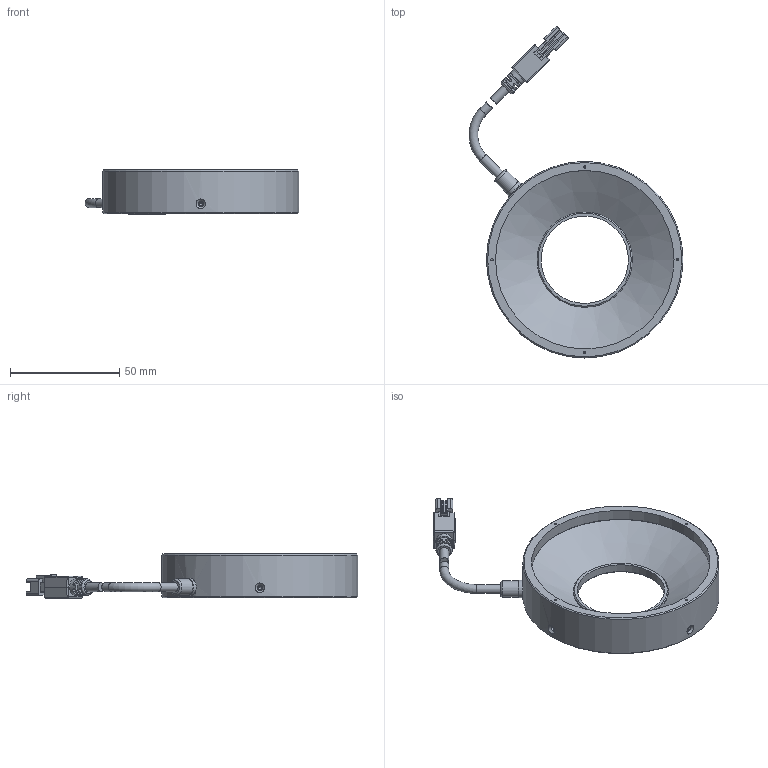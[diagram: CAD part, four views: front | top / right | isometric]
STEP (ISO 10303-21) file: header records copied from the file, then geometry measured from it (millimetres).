
FILE_DESCRIPTION (( 'STEP AP203' ), '1' );
FILE_NAME ('OPT-RI9030-X-V5.0尨砩芞.STEP', '2024-12-12T11:21:32', ( '' ), ( '' ), 'SwSTEP 2.0', 'SolidWorks 2016', '' );
FILE_SCHEMA (( 'CONFIG_CONTROL_DESIGN' ));
Length unit declared in the file: millimetre
Products named in the file (1): OPT-RI9030-X-V5.0尨砩芞
Bounding box: 98.04 x 152.11 x 20.2 mm (x, y, z)
Volume: 59726.6 mm3; surface area: 27812.4 mm2
Topology: 7 solids, 11 shells, 380 faces, 957 edges, 604 vertices
Faces by surface type: plane 188, cylinder 124, cone 36, bspline 23, torus 9
Full cylindrical faces by diameter (mm): 1.1 x4, 1.6 x4, 2 x4, 2.4 x4, 2.5 x4, 3.5 x1, 4.1 x4, 5.8 x1, 7.5 x2, 8 x1, 40 x1, 43.6 x1, 81.8 x1, 86 x1, 90 x1
Entity records: 12239 total; most frequent: CARTESIAN_POINT 3674, DIRECTION 1708, ORIENTED_EDGE 1700, EDGE_CURVE 850, AXIS2_PLACEMENT_3D 600, VERTEX_POINT 574, LINE 508, VECTOR 508
